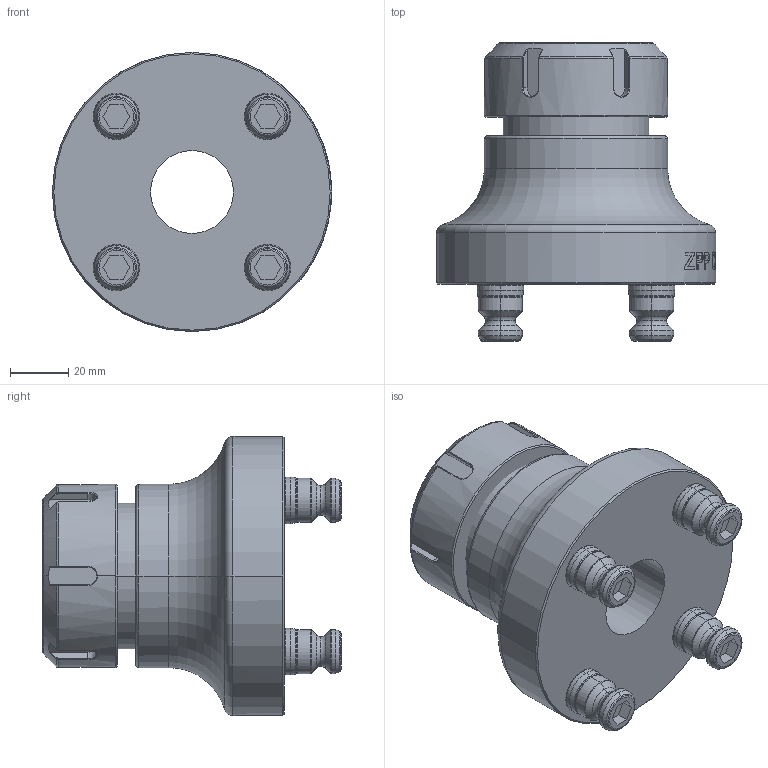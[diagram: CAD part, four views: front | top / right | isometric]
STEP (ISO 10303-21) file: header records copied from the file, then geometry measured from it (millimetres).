
FILE_DESCRIPTION((''),'2;1');
FILE_NAME('TS52-ER40_ASM','2025-01-09T18:07:16',('XF'),(''),'CREO PARAMETRIC BY PTC INC, 2023073','CREO PARAMETRIC BY PTC INC, 2023073','');
FILE_SCHEMA(('CONFIG_CONTROL_DESIGN'));
Length unit declared in the file: millimetre
Products named in the file (5): TS52-ER40_1_9; TS52-ER40_2_1; TS52-ER40_ASM_1_ASM; PS16F; TS52-ER40_ASM
Assembly tree (7 placements, depth 3):
  TS52-ER40_ASM
    TS52-ER40_ASM_1_ASM
      TS52-ER40_1_9
      TS52-ER40_2_1
    PS16F  x4
Bounding box: 96 x 102.56 x 96 mm (x, y, z)
Volume: 282888.5 mm3; surface area: 54982.2 mm2
Topology: 6 solids, 6 shells, 602 faces, 1433 edges, 874 vertices
Faces by surface type: plane 163, torus 146, cylinder 95, extrusion 94, cone 64, bspline 40
Entity records: 14790 total; most frequent: CARTESIAN_POINT 5202, ORIENTED_EDGE 2058, DIRECTION 1759, EDGE_CURVE 1029, VERTEX_POINT 658, AXIS2_PLACEMENT_3D 615, VECTOR 529, EDGE_LOOP 441
